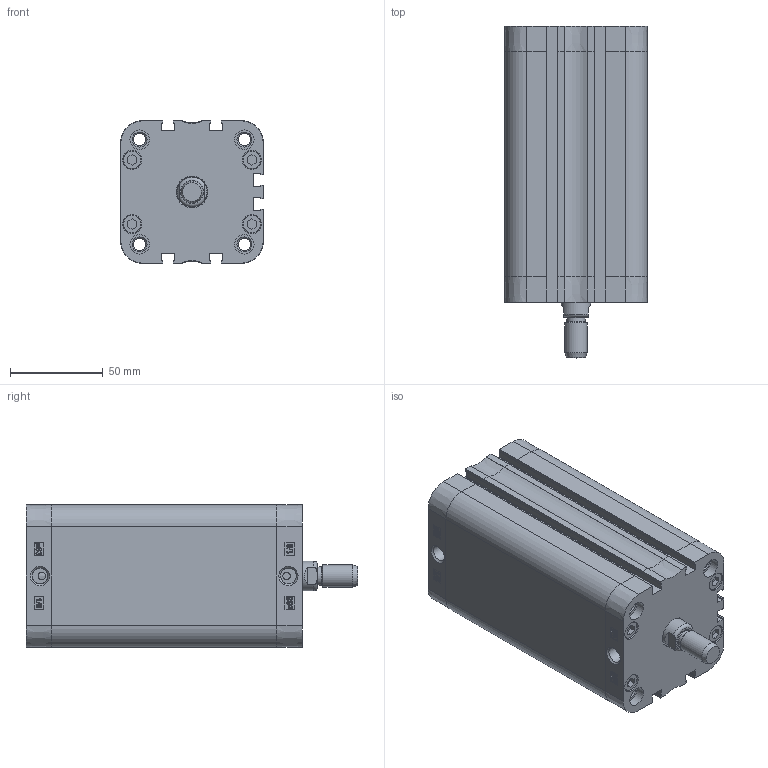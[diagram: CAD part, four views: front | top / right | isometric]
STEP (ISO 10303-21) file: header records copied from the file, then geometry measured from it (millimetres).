
FILE_DESCRIPTION((''),'2;1');
FILE_NAME('T:\Archivio Inventor\- CATALOGHI 2012\SERIE P - NUOVA\PDM\PDM063\PDM063.---.GS.M\PDM063.100.GS.M.stp','2013-02-04T09:31:03',('Administrator'),(''),'Autodesk Inventor 2012','Autodesk Inventor 2012','');
FILE_SCHEMA(('CONFIG_CONTROL_DESIGN'));
Length unit declared in the file: millimetre
Products named in the file (1): PDM063.100.GS.M
Bounding box: 77 x 179 x 77 mm (x, y, z)
Volume: 359209.8 mm3; surface area: 139233.7 mm2
Topology: 1 solids, 5 shells, 824 faces, 1993 edges, 1252 vertices
Faces by surface type: plane 346, bspline 218, cylinder 142, torus 55, cone 45, sphere 18
Full cylindrical faces by diameter (mm): 4 x2, 6.3 x4, 6.647 x8, 8.047 x4, 8.566 x2, 9.8 x8, 10 x1, 10.3 x8, 10.5 x8, 12 x2, 16 x1, 16.5 x1, 63 x1, 65.4 x1, 65.6 x1
Entity records: 27354 total; most frequent: CARTESIAN_POINT 9106, ORIENTED_EDGE 3744, DIRECTION 3031, EDGE_CURVE 1872, VERTEX_POINT 1231, AXIS2_PLACEMENT_3D 1026, EDGE_LOOP 1003, VECTOR 979
